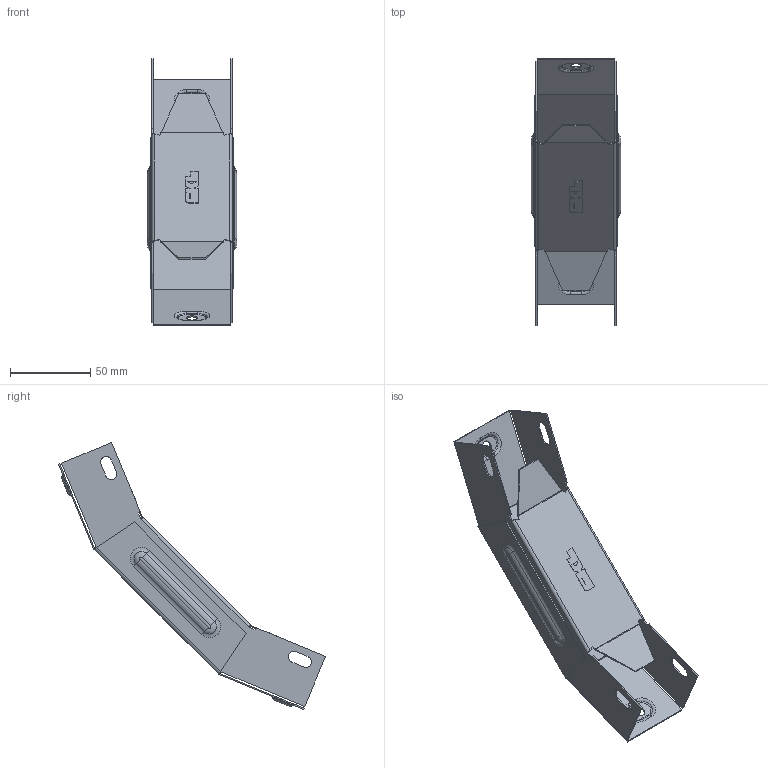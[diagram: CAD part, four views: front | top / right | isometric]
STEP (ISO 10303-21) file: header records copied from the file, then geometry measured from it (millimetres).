
FILE_DESCRIPTION (( 'STEP AP214' ), '1' );
FILE_NAME ('vo453550_捘.STEP', '2019-06-10T08:14:14', ( '砐錪賧瘔蠈錪 Windows' ), ( '' ), 'SwSTEP 2.0', 'SolidWorks 2018', '' );
FILE_SCHEMA (( 'AUTOMOTIVE_DESIGN' ));
Length unit declared in the file: millimetre
Products named in the file (1): vo453550_捘
Bounding box: 55.6 x 166.25 x 166.25 mm (x, y, z)
Volume: 29685.3 mm3; surface area: 75657.3 mm2
Topology: 2 solids, 2 shells, 396 faces, 1000 edges, 632 vertices
Faces by surface type: plane 230, cylinder 92, torus 48, bspline 26
Entity records: 12881 total; most frequent: CARTESIAN_POINT 3325, ORIENTED_EDGE 2000, DIRECTION 1914, EDGE_CURVE 1000, LINE 692, VECTOR 692, VERTEX_POINT 632, AXIS2_PLACEMENT_3D 611
